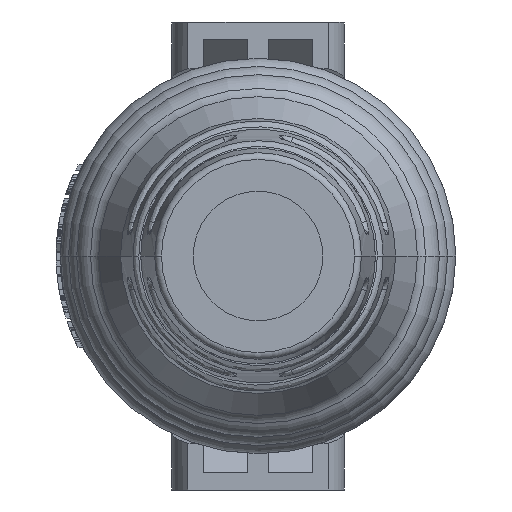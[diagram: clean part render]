
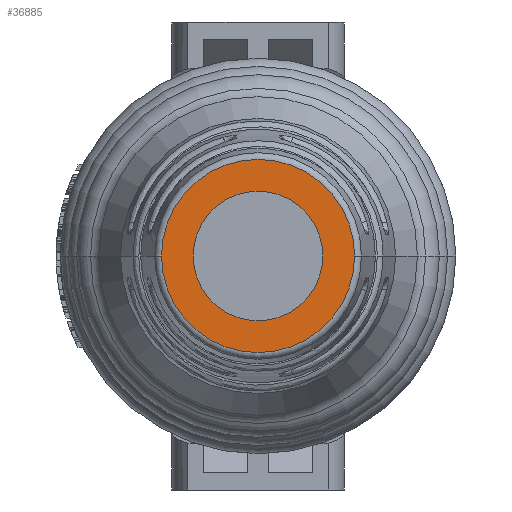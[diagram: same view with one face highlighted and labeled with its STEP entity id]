
A CAD part, left-side view. The second image highlights one B-rep face of the part: STEP entity #36885.
In plain terms, the highlighted planar face has unit normal (-1, 0, 0).
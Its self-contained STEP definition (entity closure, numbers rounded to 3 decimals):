
#6487=CARTESIAN_POINT('',(-95.9,0.,0.));
#6488=DIRECTION('',(1.,0.,0.));
#6489=DIRECTION('',(0.,-1.,0.));
#6490=AXIS2_PLACEMENT_3D('',#6487,#6488,#6489);
#6492=CARTESIAN_POINT('',(-95.9,0.,0.));
#6493=DIRECTION('',(1.,0.,0.));
#6494=DIRECTION('',(0.,1.,0.));
#6495=AXIS2_PLACEMENT_3D('',#6492,#6493,#6494);
#6497=CARTESIAN_POINT('',(-95.9,0.,0.));
#6498=DIRECTION('',(1.,0.,0.));
#6499=DIRECTION('',(0.,-1.,0.));
#6500=AXIS2_PLACEMENT_3D('',#6497,#6498,#6499);
#6502=CARTESIAN_POINT('',(-95.9,0.,0.));
#6503=DIRECTION('',(1.,0.,0.));
#6504=DIRECTION('',(0.,1.,0.));
#6505=AXIS2_PLACEMENT_3D('',#6502,#6503,#6504);
#32628=CARTESIAN_POINT('',(-95.9,-7.081,0.));
#32629=CARTESIAN_POINT('',(-95.9,7.081,0.));
#32630=VERTEX_POINT('',#32628);
#32631=VERTEX_POINT('',#32629);
#32757=CARTESIAN_POINT('',(-95.9,-4.75,0.));
#32758=CARTESIAN_POINT('',(-95.9,4.75,0.));
#32759=VERTEX_POINT('',#32757);
#32760=VERTEX_POINT('',#32758);
#36870=CARTESIAN_POINT('',(-95.9,0.,0.));
#36871=DIRECTION('',(-1.,0.,0.));
#36872=DIRECTION('',(0.,-1.,0.));
#36873=AXIS2_PLACEMENT_3D('',#36870,#36871,#36872);
#36874=PLANE('',#36873);
#36875=ORIENTED_EDGE('',*,*,#36850,.T.);
#36876=ORIENTED_EDGE('',*,*,#36864,.T.);
#36877=EDGE_LOOP('',(#36875,#36876));
#36878=FACE_OUTER_BOUND('',#36877,.F.);
#36880=ORIENTED_EDGE('',*,*,#36879,.F.);
#36882=ORIENTED_EDGE('',*,*,#36881,.F.);
#36883=EDGE_LOOP('',(#36880,#36882));
#36884=FACE_BOUND('',#36883,.F.);
#36885=ADVANCED_FACE('',(#36878,#36884),#36874,.T.);
#6491=CIRCLE('',#6490,7.081);
#6496=CIRCLE('',#6495,7.081);
#6501=CIRCLE('',#6500,4.75);
#6506=CIRCLE('',#6505,4.75);
#36850=EDGE_CURVE('',#32630,#32631,#6491,.T.);
#36864=EDGE_CURVE('',#32631,#32630,#6496,.T.);
#36879=EDGE_CURVE('',#32759,#32760,#6501,.T.);
#36881=EDGE_CURVE('',#32760,#32759,#6506,.T.);
